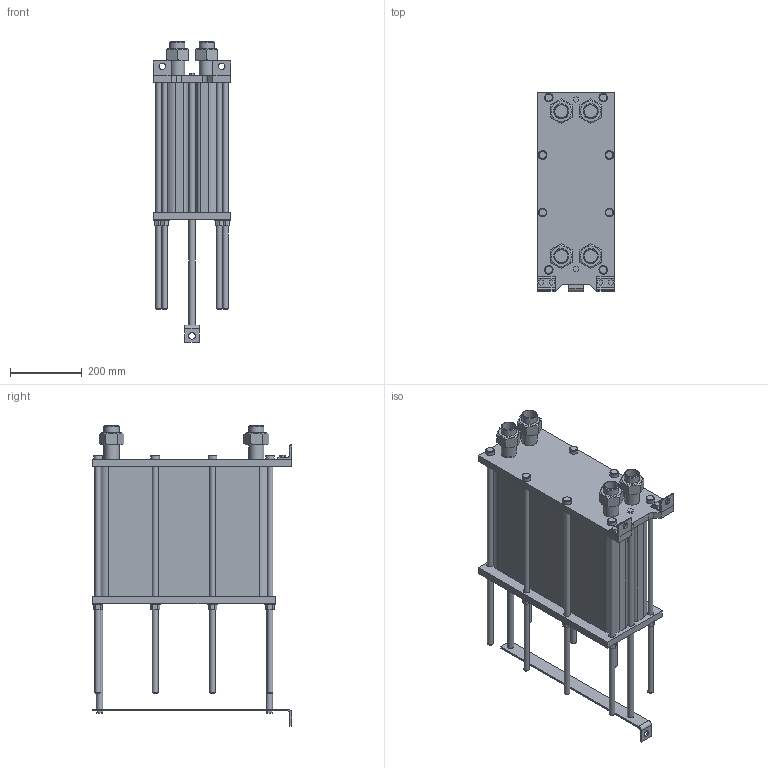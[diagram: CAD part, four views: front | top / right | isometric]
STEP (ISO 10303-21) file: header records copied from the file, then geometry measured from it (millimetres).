
FILE_DESCRIPTION(/* description */ (''),/* implementation_level */ '2;1');
FILE_NAME(/* name */ 'C:\Users\zhuro\Desktop\ENCO\TO\ЭН-004\ЭН-0,5-004-117-1.stp',/* time_stamp */ '2022-06-06T10:54:15+03:00',/* author */ ('zhuro'),/* organization */ (''),/* preprocessor_version */ 'ST-DEVELOPER v18.1',/* originating_system */ 'Autodesk Inventor 2022',/* authorisation */ '');
FILE_SCHEMA (('AUTOMOTIVE_DESIGN { 1 0 10303 214 3 1 1 }'));
Length unit declared in the file: millimetre
Products named in the file (1): ЭН-0,5-004-117-1
Bounding box: 216 x 555 x 838.6 mm (x, y, z)
Volume: 33015327 mm3; surface area: 1743918.8 mm2
Topology: 40 solids, 40 shells, 403 faces, 865 edges, 574 vertices
Faces by surface type: plane 272, cylinder 103, cone 28
Full cylindrical faces by diameter (mm): 10 x4, 16 x16, 18 x29, 20 x2, 24 x8, 28 x8, 36.3 x5, 42.3 x9
Entity records: 11137 total; most frequent: CARTESIAN_POINT 1939, DIRECTION 1879, ORIENTED_EDGE 1730, EDGE_CURVE 865, AXIS2_PLACEMENT_3D 658, VERTEX_POINT 574, LINE 563, VECTOR 563
